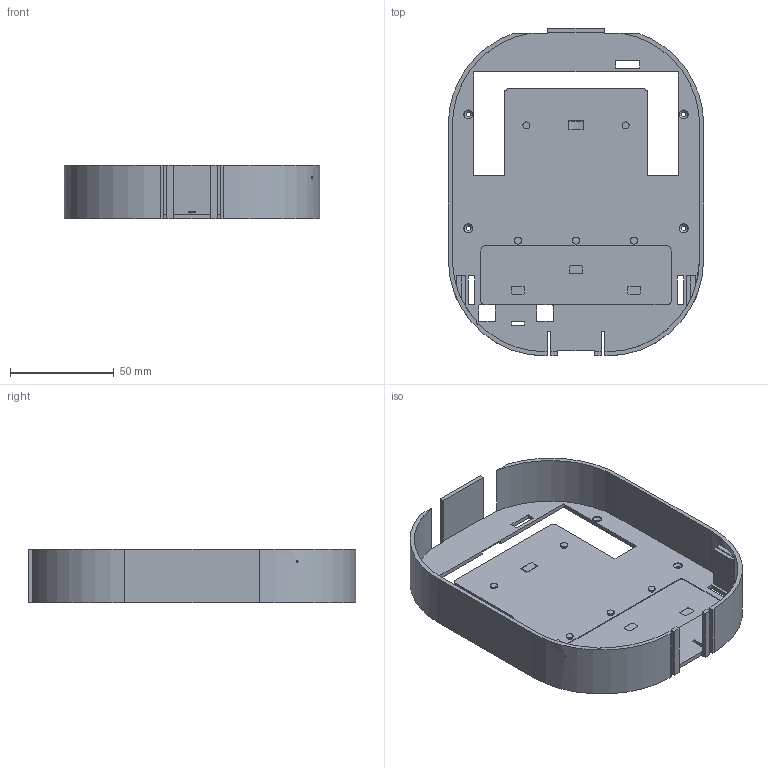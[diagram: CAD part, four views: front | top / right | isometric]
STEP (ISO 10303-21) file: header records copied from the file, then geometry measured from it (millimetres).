
FILE_DESCRIPTION(('FreeCAD Model'),'2;1');
FILE_NAME('Open CASCADE Shape Model','2026-11-13T18:42:12',('FreeCAD'),( 'FreeCAD'),'Open CASCADE STEP processor 7.8','FreeCAD','Unknown');
FILE_SCHEMA(('AUTOMOTIVE_DESIGN { 1 0 10303 214 1 1 1 1 }'));
Length unit declared in the file: millimetre
Products named in the file (1): Open CASCADE STEP translator 7.8 3
Bounding box: 123.4 x 158.4 x 26 mm (x, y, z)
Volume: 51701.8 mm3; surface area: 55022.6 mm2
Topology: 1 solids, 1 shells, 211 faces, 561 edges, 372 vertices
Faces by surface type: plane 138, cylinder 69, cone 4
Full cylindrical faces by diameter (mm): 1 x6, 2 x5, 2.2 x4, 3.4 x5, 4.3 x4
Entity records: 6780 total; most frequent: CARTESIAN_POINT 1325, ORIENTED_EDGE 1122, DIRECTION 1120, EDGE_CURVE 561, LINE 402, VECTOR 402, VERTEX_POINT 372, AXIS2_PLACEMENT_3D 359
